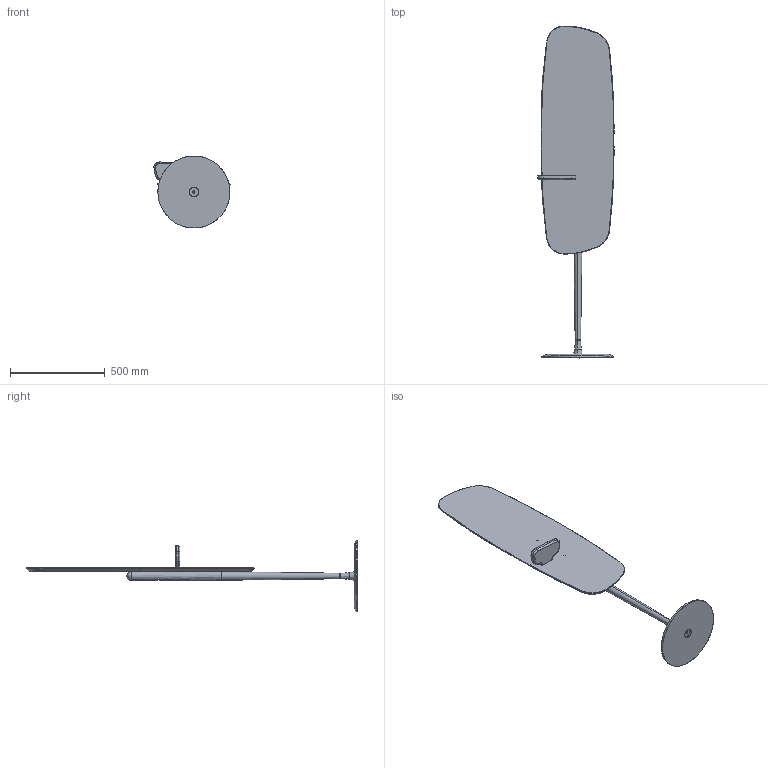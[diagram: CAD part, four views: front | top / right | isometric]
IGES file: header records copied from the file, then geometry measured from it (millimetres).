
Start section: SolidWorks IGES file using analytic representation for surfaces
Global section: file name: N:\OT\OFICINA TECNICA\PROYECTOS\EN DESARROLLO\COLECCION_MOMENTOS\ESPEJO_CUERPO\3D SOLIDWORKS\ESPEJO_DE_PIE.IGS; native system: SolidWorks 2016; preprocessor: SolidWorks 2016; author: Usuario; date: 190802.112630; units: millimetre
Bounding box: 401.54 x 1751.5 x 379.82 mm (x, y, z)
Surface area: 2160398.9 mm2 (no closed solid volume)
Topology: 0 solids, 0 shells, 186 faces, 3015 edges, 3014 vertices
Faces by surface type: revolution 109, bspline 77
